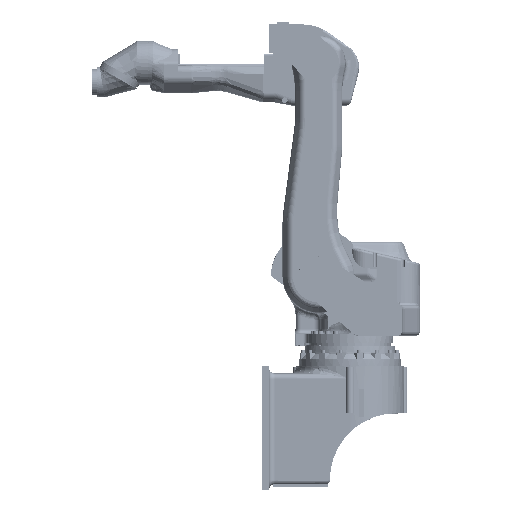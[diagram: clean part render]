
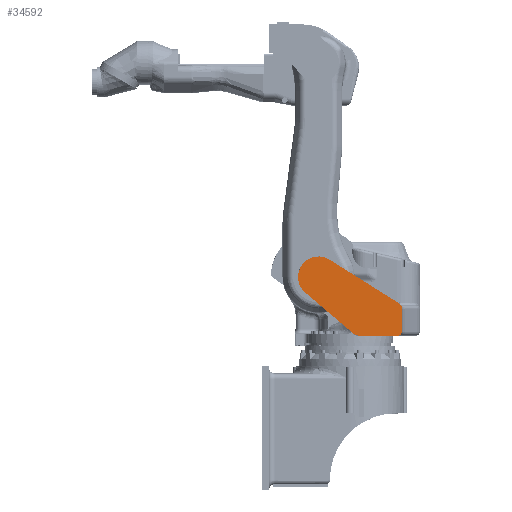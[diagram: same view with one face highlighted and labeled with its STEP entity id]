
A CAD part, left-side view. The second image highlights one B-rep face of the part: STEP entity #34592.
In plain terms, the highlighted planar face has unit normal (-1, 0, 0).
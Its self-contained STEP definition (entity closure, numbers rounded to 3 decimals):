
#34325=CARTESIAN_POINT('Vertex',(-380.,-212.,-260.)) ;
#34332=CARTESIAN_POINT('Vertex',(-380.,-230.,-242.)) ;
#34335=CARTESIAN_POINT('Axis2P3D Location',(-380.,-212.,-242.)) ;
#34517=CARTESIAN_POINT('Vertex',(-380.,198.993,-69.288)) ;
#34520=CARTESIAN_POINT('Axis2P3D Location',(-380.,140.,0.)) ;
#34524=CARTESIAN_POINT('Vertex',(-380.,91.587,77.053)) ;
#34539=CARTESIAN_POINT('Axis2P3D Location',(-380.,140.,0.)) ;
#34544=CARTESIAN_POINT('Line Origine',(-380.,92.601,-159.872)) ;
#34548=CARTESIAN_POINT('Vertex',(-380.,-13.791,-250.456)) ;
#34551=CARTESIAN_POINT('Axis2P3D Location',(-380.,-39.722,-220.)) ;
#34555=CARTESIAN_POINT('Vertex',(-380.,-39.722,-260.)) ;
#34558=CARTESIAN_POINT('Line Origine',(-380.,-125.861,-260.)) ;
#34563=CARTESIAN_POINT('Line Origine',(-380.,-230.,-191.79)) ;
#34567=CARTESIAN_POINT('Vertex',(-380.,-230.,-141.581)) ;
#34570=CARTESIAN_POINT('Axis2P3D Location',(-380.,-200.,-141.581)) ;
#34574=CARTESIAN_POINT('Vertex',(-380.,-215.96,-116.179)) ;
#34577=CARTESIAN_POINT('Line Origine',(-380.,-62.186,-19.563)) ;
#34336=DIRECTION('Axis2P3D Direction',(-1.,0.,0.)) ;
#34521=DIRECTION('Axis2P3D Direction',(-1.,0.,0.)) ;
#34540=DIRECTION('Axis2P3D Direction',(-1.,0.,0.)) ;
#34541=DIRECTION('Axis2P3D XDirection',(0.,0.,-1.)) ;
#34545=DIRECTION('Vector Direction',(0.,0.761,0.648)) ;
#34552=DIRECTION('Axis2P3D Direction',(-1.,0.,0.)) ;
#34559=DIRECTION('Vector Direction',(0.,-1.,0.)) ;
#34564=DIRECTION('Vector Direction',(0.,0.,-1.)) ;
#34571=DIRECTION('Axis2P3D Direction',(-1.,0.,0.)) ;
#34578=DIRECTION('Vector Direction',(0.,-0.847,-0.532)) ;
#34337=AXIS2_PLACEMENT_3D('Circle Axis2P3D',#34335,#34336,$) ;
#34522=AXIS2_PLACEMENT_3D('Circle Axis2P3D',#34520,#34521,$) ;
#34542=AXIS2_PLACEMENT_3D('Plane Axis2P3D',#34539,#34540,#34541) ;
#34553=AXIS2_PLACEMENT_3D('Circle Axis2P3D',#34551,#34552,$) ;
#34572=AXIS2_PLACEMENT_3D('Circle Axis2P3D',#34570,#34571,$) ;
#34583=ORIENTED_EDGE('',*,*,#34526,.T.) ;
#34584=ORIENTED_EDGE('',*,*,#34550,.T.) ;
#34585=ORIENTED_EDGE('',*,*,#34557,.T.) ;
#34586=ORIENTED_EDGE('',*,*,#34562,.T.) ;
#34587=ORIENTED_EDGE('',*,*,#34339,.T.) ;
#34588=ORIENTED_EDGE('',*,*,#34569,.T.) ;
#34589=ORIENTED_EDGE('',*,*,#34576,.T.) ;
#34590=ORIENTED_EDGE('',*,*,#34581,.T.) ;
#34546=VECTOR('Line Direction',#34545,1.) ;
#34560=VECTOR('Line Direction',#34559,1.) ;
#34565=VECTOR('Line Direction',#34564,1.) ;
#34579=VECTOR('Line Direction',#34578,1.) ;
#34592=ADVANCED_FACE('UNIT ROTOR TRUNK.1\\60363-0010 ROTOR_TRUNK.1\\\X2\FF8AFF9FFF70FF82\X0\ \X2\FF8EFF9EFF83FF9EFF68FF70\X0\',(#34591),#34543,.T.) ;
#34338=CIRCLE('generated circle',#34337,18.) ;
#34523=CIRCLE('generated circle',#34522,91.) ;
#34554=CIRCLE('generated circle',#34553,40.) ;
#34573=CIRCLE('generated circle',#34572,30.) ;
#34339=EDGE_CURVE('',#34326,#34333,#34338,.T.) ;
#34526=EDGE_CURVE('',#34525,#34518,#34523,.T.) ;
#34550=EDGE_CURVE('',#34518,#34549,#34547,.F.) ;
#34557=EDGE_CURVE('',#34549,#34556,#34554,.T.) ;
#34562=EDGE_CURVE('',#34556,#34326,#34561,.T.) ;
#34569=EDGE_CURVE('',#34333,#34568,#34566,.F.) ;
#34576=EDGE_CURVE('',#34568,#34575,#34573,.T.) ;
#34581=EDGE_CURVE('',#34575,#34525,#34580,.F.) ;
#34582=EDGE_LOOP('',(#34583,#34584,#34585,#34586,#34587,#34588,#34589,#34590)) ;
#34591=FACE_OUTER_BOUND('',#34582,.T.) ;
#34547=LINE('Line',#34544,#34546) ;
#34561=LINE('Line',#34558,#34560) ;
#34566=LINE('Line',#34563,#34565) ;
#34580=LINE('Line',#34577,#34579) ;
#34543=PLANE('',#34542) ;
#34326=VERTEX_POINT('',#34325) ;
#34333=VERTEX_POINT('',#34332) ;
#34518=VERTEX_POINT('',#34517) ;
#34525=VERTEX_POINT('',#34524) ;
#34549=VERTEX_POINT('',#34548) ;
#34556=VERTEX_POINT('',#34555) ;
#34568=VERTEX_POINT('',#34567) ;
#34575=VERTEX_POINT('',#34574) ;
